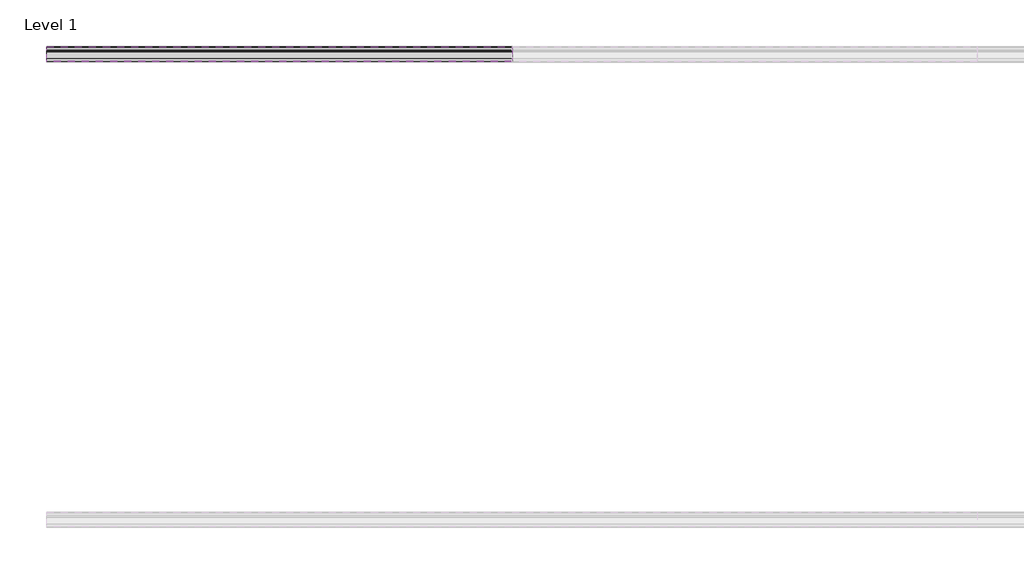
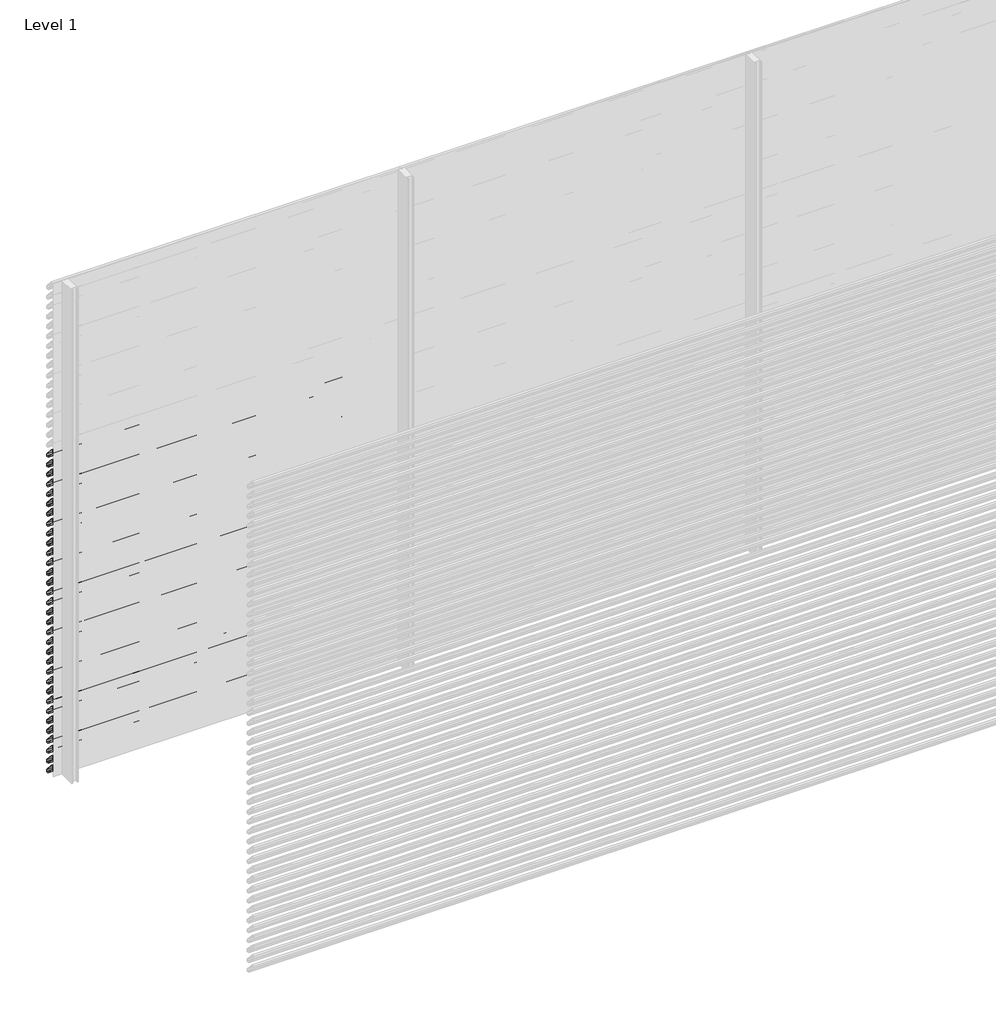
# One storey, part 110 of 153: 33 proxies.
"""IFC4 building model written with IfcOpenShell, lengths in millimetres."""

from ifc_helpers import new_model, si_unit, point, frame, frame_2d, origin, place, context, project, spatial, polyline, circle_curve, trimmed, segment, composite_curve, outline, extrude, element, save

model = new_model("IFC4")

# Units and contexts
model_context = context("Model", 3, world=origin())
ifc_project = project(units=[si_unit("LENGTHUNIT", "METRE", prefix="MILLI")], contexts=[model_context])

# Site, building, storey
site = spatial("IfcSite", under=ifc_project)
building = spatial("IfcBuilding", under=site)
storey = spatial("IfcBuildingStorey", under=building, Name="Level 1", Elevation=0.0)

# Proxies
placement = place(None, origin())
element("IfcBuildingElementProxy", 1, Name="Wall Sweeps", at=placement, inside=storey, context=model_context, shape_type="SweptSolid", body=[
    extrude(outline(composite_curve([segment(polyline([(51485.0540136, 1980.0), (51499.874191, 1978.7034025), (51549.0540136, 1925.0102749), (51549.0540136, 1913.6108187)]), True, "CONTINUOUS"), segment(trimmed(circle_curve(frame_2d((51545.7883652, 1913.897153)), 3.2781774), [point((51549.0540136, 1913.6108187))], [point((51546.4639442, 1910.6893438))], False, "CARTESIAN"), True, "CONTINUOUS"), segment(polyline([(51546.4639442, 1910.6893438), (51534.1895723, 1911.6282758), (51485.0540136, 1965.2730773), (51485.0540136, 1980.0)]), True, "CONTINUOUS")], self_intersect=False), holes=[composite_curve([segment(polyline([(51499.1621773, 1977.2599659), (51486.5540136, 1978.3630372), (51486.5540136, 1965.856213), (51534.8952036, 1913.0786805), (51546.3312542, 1912.2038762)]), True, "CONTINUOUS"), segment(trimmed(circle_curve(frame_2d((51545.7883652, 1913.897153)), 1.7781774), [point((51546.3312542, 1912.2038762))], [point((51547.5540136, 1913.6864389))], True, "CARTESIAN"), True, "CONTINUOUS"), segment(polyline([(51547.5540136, 1913.6864389), (51547.5540136, 1924.4271392), (51499.1621773, 1977.2599659)]), True, "CONTINUOUS")], self_intersect=False)]), frame((44966.6208097, 0.0, 0.0), z_axis=(1.0, 0.0, 0.0), x_axis=(0.0, 1.0, 0.0)), (0.0, 0.0, 1.0), 2000.0000001),
])
element("IfcBuildingElementProxy", 2, Name="Wall Sweeps", at=placement, inside=storey, context=model_context, shape_type="SweptSolid", body=[
    extrude(outline(composite_curve([segment(polyline([(51485.0540136, 1920.0), (51499.874191, 1918.7034025), (51549.0540136, 1865.0102749), (51549.0540136, 1853.6108187)]), True, "CONTINUOUS"), segment(trimmed(circle_curve(frame_2d((51545.7883652, 1853.897153)), 3.2781774), [point((51549.0540136, 1853.6108187))], [point((51546.4639442, 1850.6893438))], False, "CARTESIAN"), True, "CONTINUOUS"), segment(polyline([(51546.4639442, 1850.6893438), (51534.1895723, 1851.6282758), (51485.0540136, 1905.2730773), (51485.0540136, 1920.0)]), True, "CONTINUOUS")], self_intersect=False), holes=[composite_curve([segment(polyline([(51499.1621773, 1917.2599659), (51486.5540136, 1918.3630372), (51486.5540136, 1905.856213), (51534.8952036, 1853.0786805), (51546.3312542, 1852.2038762)]), True, "CONTINUOUS"), segment(trimmed(circle_curve(frame_2d((51545.7883652, 1853.897153)), 1.7781774), [point((51546.3312542, 1852.2038762))], [point((51547.5540136, 1853.6864389))], True, "CARTESIAN"), True, "CONTINUOUS"), segment(polyline([(51547.5540136, 1853.6864389), (51547.5540136, 1864.4271392), (51499.1621773, 1917.2599659)]), True, "CONTINUOUS")], self_intersect=False)]), frame((44966.6208097, 0.0, 0.0), z_axis=(1.0, 0.0, 0.0), x_axis=(0.0, 1.0, 0.0)), (0.0, 0.0, 1.0), 2000.0000001),
])
element("IfcBuildingElementProxy", 3, Name="Wall Sweeps", at=placement, inside=storey, context=model_context, shape_type="SweptSolid", body=[
    extrude(outline(composite_curve([segment(polyline([(51485.0540136, 1860.0), (51499.874191, 1858.7034025), (51549.0540136, 1805.0102749), (51549.0540136, 1793.6108187)]), True, "CONTINUOUS"), segment(trimmed(circle_curve(frame_2d((51545.7883652, 1793.897153)), 3.2781774), [point((51549.0540136, 1793.6108187))], [point((51546.4639442, 1790.6893438))], False, "CARTESIAN"), True, "CONTINUOUS"), segment(polyline([(51546.4639442, 1790.6893438), (51534.1895723, 1791.6282758), (51485.0540136, 1845.2730773), (51485.0540136, 1860.0)]), True, "CONTINUOUS")], self_intersect=False), holes=[composite_curve([segment(polyline([(51499.1621773, 1857.2599659), (51486.5540136, 1858.3630372), (51486.5540136, 1845.856213), (51534.8952036, 1793.0786805), (51546.3312542, 1792.2038762)]), True, "CONTINUOUS"), segment(trimmed(circle_curve(frame_2d((51545.7883652, 1793.897153)), 1.7781774), [point((51546.3312542, 1792.2038762))], [point((51547.5540136, 1793.6864389))], True, "CARTESIAN"), True, "CONTINUOUS"), segment(polyline([(51547.5540136, 1793.6864389), (51547.5540136, 1804.4271392), (51499.1621773, 1857.2599659)]), True, "CONTINUOUS")], self_intersect=False)]), frame((44966.6208097, 0.0, 0.0), z_axis=(1.0, 0.0, 0.0), x_axis=(0.0, 1.0, 0.0)), (0.0, 0.0, 1.0), 2000.0000001),
])
element("IfcBuildingElementProxy", 4, Name="Wall Sweeps", at=placement, inside=storey, context=model_context, shape_type="SweptSolid", body=[
    extrude(outline(composite_curve([segment(polyline([(51485.0540136, 1800.0), (51499.874191, 1798.7034025), (51549.0540136, 1745.0102749), (51549.0540136, 1733.6108187)]), True, "CONTINUOUS"), segment(trimmed(circle_curve(frame_2d((51545.7883652, 1733.897153)), 3.2781774), [point((51549.0540136, 1733.6108187))], [point((51546.4639442, 1730.6893438))], False, "CARTESIAN"), True, "CONTINUOUS"), segment(polyline([(51546.4639442, 1730.6893438), (51534.1895723, 1731.6282758), (51485.0540136, 1785.2730773), (51485.0540136, 1800.0)]), True, "CONTINUOUS")], self_intersect=False), holes=[composite_curve([segment(polyline([(51499.1621773, 1797.2599659), (51486.5540136, 1798.3630372), (51486.5540136, 1785.856213), (51534.8952036, 1733.0786805), (51546.3312542, 1732.2038762)]), True, "CONTINUOUS"), segment(trimmed(circle_curve(frame_2d((51545.7883652, 1733.897153)), 1.7781774), [point((51546.3312542, 1732.2038762))], [point((51547.5540136, 1733.6864389))], True, "CARTESIAN"), True, "CONTINUOUS"), segment(polyline([(51547.5540136, 1733.6864389), (51547.5540136, 1744.4271392), (51499.1621773, 1797.2599659)]), True, "CONTINUOUS")], self_intersect=False)]), frame((44966.6208097, 0.0, 0.0), z_axis=(1.0, 0.0, 0.0), x_axis=(0.0, 1.0, 0.0)), (0.0, 0.0, 1.0), 2000.0000001),
])
element("IfcBuildingElementProxy", 5, Name="Wall Sweeps", at=placement, inside=storey, context=model_context, shape_type="SweptSolid", body=[
    extrude(outline(composite_curve([segment(polyline([(51485.0540136, 1740.0), (51499.874191, 1738.7034025), (51549.0540136, 1685.0102749), (51549.0540136, 1673.6108187)]), True, "CONTINUOUS"), segment(trimmed(circle_curve(frame_2d((51545.7883652, 1673.897153)), 3.2781774), [point((51549.0540136, 1673.6108187))], [point((51546.4639442, 1670.6893438))], False, "CARTESIAN"), True, "CONTINUOUS"), segment(polyline([(51546.4639442, 1670.6893438), (51534.1895723, 1671.6282758), (51485.0540136, 1725.2730773), (51485.0540136, 1740.0)]), True, "CONTINUOUS")], self_intersect=False), holes=[composite_curve([segment(polyline([(51499.1621773, 1737.2599659), (51486.5540136, 1738.3630372), (51486.5540136, 1725.856213), (51534.8952036, 1673.0786805), (51546.3312542, 1672.2038762)]), True, "CONTINUOUS"), segment(trimmed(circle_curve(frame_2d((51545.7883652, 1673.897153)), 1.7781774), [point((51546.3312542, 1672.2038762))], [point((51547.5540136, 1673.6864389))], True, "CARTESIAN"), True, "CONTINUOUS"), segment(polyline([(51547.5540136, 1673.6864389), (51547.5540136, 1684.4271392), (51499.1621773, 1737.2599659)]), True, "CONTINUOUS")], self_intersect=False)]), frame((44966.6208097, 0.0, 0.0), z_axis=(1.0, 0.0, 0.0), x_axis=(0.0, 1.0, 0.0)), (0.0, 0.0, 1.0), 2000.0000001),
])
element("IfcBuildingElementProxy", 6, Name="Wall Sweeps", at=placement, inside=storey, context=model_context, shape_type="SweptSolid", body=[
    extrude(outline(composite_curve([segment(polyline([(51485.0540136, 1680.0), (51499.874191, 1678.7034025), (51549.0540136, 1625.0102749), (51549.0540136, 1613.6108187)]), True, "CONTINUOUS"), segment(trimmed(circle_curve(frame_2d((51545.7883652, 1613.897153)), 3.2781774), [point((51549.0540136, 1613.6108187))], [point((51546.4639442, 1610.6893438))], False, "CARTESIAN"), True, "CONTINUOUS"), segment(polyline([(51546.4639442, 1610.6893438), (51534.1895723, 1611.6282758), (51485.0540136, 1665.2730773), (51485.0540136, 1680.0)]), True, "CONTINUOUS")], self_intersect=False), holes=[composite_curve([segment(polyline([(51499.1621773, 1677.2599659), (51486.5540136, 1678.3630372), (51486.5540136, 1665.856213), (51534.8952036, 1613.0786805), (51546.3312542, 1612.2038762)]), True, "CONTINUOUS"), segment(trimmed(circle_curve(frame_2d((51545.7883652, 1613.897153)), 1.7781774), [point((51546.3312542, 1612.2038762))], [point((51547.5540136, 1613.6864389))], True, "CARTESIAN"), True, "CONTINUOUS"), segment(polyline([(51547.5540136, 1613.6864389), (51547.5540136, 1624.4271392), (51499.1621773, 1677.2599659)]), True, "CONTINUOUS")], self_intersect=False)]), frame((44966.6208097, 0.0, 0.0), z_axis=(1.0, 0.0, 0.0), x_axis=(0.0, 1.0, 0.0)), (0.0, 0.0, 1.0), 2000.0000001),
])
element("IfcBuildingElementProxy", 7, Name="Wall Sweeps", at=placement, inside=storey, context=model_context, shape_type="SweptSolid", body=[
    extrude(outline(composite_curve([segment(polyline([(51485.0540136, 1620.0), (51499.874191, 1618.7034025), (51549.0540136, 1565.0102749), (51549.0540136, 1553.6108187)]), True, "CONTINUOUS"), segment(trimmed(circle_curve(frame_2d((51545.7883652, 1553.897153)), 3.2781774), [point((51549.0540136, 1553.6108187))], [point((51546.4639442, 1550.6893438))], False, "CARTESIAN"), True, "CONTINUOUS"), segment(polyline([(51546.4639442, 1550.6893438), (51534.1895723, 1551.6282758), (51485.0540136, 1605.2730773), (51485.0540136, 1620.0)]), True, "CONTINUOUS")], self_intersect=False), holes=[composite_curve([segment(polyline([(51499.1621773, 1617.2599659), (51486.5540136, 1618.3630372), (51486.5540136, 1605.856213), (51534.8952036, 1553.0786805), (51546.3312542, 1552.2038762)]), True, "CONTINUOUS"), segment(trimmed(circle_curve(frame_2d((51545.7883652, 1553.897153)), 1.7781774), [point((51546.3312542, 1552.2038762))], [point((51547.5540136, 1553.6864389))], True, "CARTESIAN"), True, "CONTINUOUS"), segment(polyline([(51547.5540136, 1553.6864389), (51547.5540136, 1564.4271392), (51499.1621773, 1617.2599659)]), True, "CONTINUOUS")], self_intersect=False)]), frame((44966.6208097, 0.0, 0.0), z_axis=(1.0, 0.0, 0.0), x_axis=(0.0, 1.0, 0.0)), (0.0, 0.0, 1.0), 2000.0000001),
])
element("IfcBuildingElementProxy", 8, Name="Wall Sweeps", at=placement, inside=storey, context=model_context, shape_type="SweptSolid", body=[
    extrude(outline(composite_curve([segment(polyline([(51485.0540136, 1560.0), (51499.874191, 1558.7034025), (51549.0540136, 1505.0102749), (51549.0540136, 1493.6108187)]), True, "CONTINUOUS"), segment(trimmed(circle_curve(frame_2d((51545.7883652, 1493.897153)), 3.2781774), [point((51549.0540136, 1493.6108187))], [point((51546.4639442, 1490.6893438))], False, "CARTESIAN"), True, "CONTINUOUS"), segment(polyline([(51546.4639442, 1490.6893438), (51534.1895723, 1491.6282758), (51485.0540136, 1545.2730773), (51485.0540136, 1560.0)]), True, "CONTINUOUS")], self_intersect=False), holes=[composite_curve([segment(polyline([(51499.1621773, 1557.2599659), (51486.5540136, 1558.3630372), (51486.5540136, 1545.856213), (51534.8952036, 1493.0786805), (51546.3312542, 1492.2038762)]), True, "CONTINUOUS"), segment(trimmed(circle_curve(frame_2d((51545.7883652, 1493.897153)), 1.7781774), [point((51546.3312542, 1492.2038762))], [point((51547.5540136, 1493.6864389))], True, "CARTESIAN"), True, "CONTINUOUS"), segment(polyline([(51547.5540136, 1493.6864389), (51547.5540136, 1504.4271392), (51499.1621773, 1557.2599659)]), True, "CONTINUOUS")], self_intersect=False)]), frame((44966.6208097, 0.0, 0.0), z_axis=(1.0, 0.0, 0.0), x_axis=(0.0, 1.0, 0.0)), (0.0, 0.0, 1.0), 2000.0000001),
])
element("IfcBuildingElementProxy", 9, Name="Wall Sweeps", at=placement, inside=storey, context=model_context, shape_type="SweptSolid", body=[
    extrude(outline(composite_curve([segment(polyline([(51485.0540136, 1500.0), (51499.874191, 1498.7034025), (51549.0540136, 1445.0102749), (51549.0540136, 1433.6108187)]), True, "CONTINUOUS"), segment(trimmed(circle_curve(frame_2d((51545.7883652, 1433.897153)), 3.2781774), [point((51549.0540136, 1433.6108187))], [point((51546.4639442, 1430.6893438))], False, "CARTESIAN"), True, "CONTINUOUS"), segment(polyline([(51546.4639442, 1430.6893438), (51534.1895723, 1431.6282758), (51485.0540136, 1485.2730773), (51485.0540136, 1500.0)]), True, "CONTINUOUS")], self_intersect=False), holes=[composite_curve([segment(polyline([(51499.1621773, 1497.2599659), (51486.5540136, 1498.3630372), (51486.5540136, 1485.856213), (51534.8952036, 1433.0786805), (51546.3312542, 1432.2038762)]), True, "CONTINUOUS"), segment(trimmed(circle_curve(frame_2d((51545.7883652, 1433.897153)), 1.7781774), [point((51546.3312542, 1432.2038762))], [point((51547.5540136, 1433.6864389))], True, "CARTESIAN"), True, "CONTINUOUS"), segment(polyline([(51547.5540136, 1433.6864389), (51547.5540136, 1444.4271392), (51499.1621773, 1497.2599659)]), True, "CONTINUOUS")], self_intersect=False)]), frame((44966.6208097, 0.0, 0.0), z_axis=(1.0, 0.0, 0.0), x_axis=(0.0, 1.0, 0.0)), (0.0, 0.0, 1.0), 2000.0000001),
])
element("IfcBuildingElementProxy", 10, Name="Wall Sweeps", at=placement, inside=storey, context=model_context, shape_type="SweptSolid", body=[
    extrude(outline(composite_curve([segment(polyline([(51485.0540136, 1440.0), (51499.874191, 1438.7034025), (51549.0540136, 1385.0102749), (51549.0540136, 1373.6108187)]), True, "CONTINUOUS"), segment(trimmed(circle_curve(frame_2d((51545.7883652, 1373.897153)), 3.2781774), [point((51549.0540136, 1373.6108187))], [point((51546.4639442, 1370.6893438))], False, "CARTESIAN"), True, "CONTINUOUS"), segment(polyline([(51546.4639442, 1370.6893438), (51534.1895723, 1371.6282758), (51485.0540136, 1425.2730773), (51485.0540136, 1440.0)]), True, "CONTINUOUS")], self_intersect=False), holes=[composite_curve([segment(polyline([(51499.1621773, 1437.2599659), (51486.5540136, 1438.3630372), (51486.5540136, 1425.856213), (51534.8952036, 1373.0786805), (51546.3312542, 1372.2038762)]), True, "CONTINUOUS"), segment(trimmed(circle_curve(frame_2d((51545.7883652, 1373.897153)), 1.7781774), [point((51546.3312542, 1372.2038762))], [point((51547.5540136, 1373.6864389))], True, "CARTESIAN"), True, "CONTINUOUS"), segment(polyline([(51547.5540136, 1373.6864389), (51547.5540136, 1384.4271392), (51499.1621773, 1437.2599659)]), True, "CONTINUOUS")], self_intersect=False)]), frame((44966.6208097, 0.0, 0.0), z_axis=(1.0, 0.0, 0.0), x_axis=(0.0, 1.0, 0.0)), (0.0, 0.0, 1.0), 2000.0000001),
])
element("IfcBuildingElementProxy", 11, Name="Wall Sweeps", at=placement, inside=storey, context=model_context, shape_type="SweptSolid", body=[
    extrude(outline(composite_curve([segment(polyline([(51485.0540136, 1380.0), (51499.874191, 1378.7034025), (51549.0540136, 1325.0102749), (51549.0540136, 1313.6108187)]), True, "CONTINUOUS"), segment(trimmed(circle_curve(frame_2d((51545.7883652, 1313.897153)), 3.2781774), [point((51549.0540136, 1313.6108187))], [point((51546.4639442, 1310.6893438))], False, "CARTESIAN"), True, "CONTINUOUS"), segment(polyline([(51546.4639442, 1310.6893438), (51534.1895723, 1311.6282758), (51485.0540136, 1365.2730773), (51485.0540136, 1380.0)]), True, "CONTINUOUS")], self_intersect=False), holes=[composite_curve([segment(polyline([(51499.1621773, 1377.2599659), (51486.5540136, 1378.3630372), (51486.5540136, 1365.856213), (51534.8952036, 1313.0786805), (51546.3312542, 1312.2038762)]), True, "CONTINUOUS"), segment(trimmed(circle_curve(frame_2d((51545.7883652, 1313.897153)), 1.7781774), [point((51546.3312542, 1312.2038762))], [point((51547.5540136, 1313.6864389))], True, "CARTESIAN"), True, "CONTINUOUS"), segment(polyline([(51547.5540136, 1313.6864389), (51547.5540136, 1324.4271392), (51499.1621773, 1377.2599659)]), True, "CONTINUOUS")], self_intersect=False)]), frame((44966.6208097, 0.0, 0.0), z_axis=(1.0, 0.0, 0.0), x_axis=(0.0, 1.0, 0.0)), (0.0, 0.0, 1.0), 2000.0000001),
])
element("IfcBuildingElementProxy", 12, Name="Wall Sweeps", at=placement, inside=storey, context=model_context, shape_type="SweptSolid", body=[
    extrude(outline(composite_curve([segment(polyline([(51485.0540136, 1320.0), (51499.874191, 1318.7034025), (51549.0540136, 1265.0102749), (51549.0540136, 1253.6108187)]), True, "CONTINUOUS"), segment(trimmed(circle_curve(frame_2d((51545.7883652, 1253.897153)), 3.2781774), [point((51549.0540136, 1253.6108187))], [point((51546.4639442, 1250.6893438))], False, "CARTESIAN"), True, "CONTINUOUS"), segment(polyline([(51546.4639442, 1250.6893438), (51534.1895723, 1251.6282758), (51485.0540136, 1305.2730773), (51485.0540136, 1320.0)]), True, "CONTINUOUS")], self_intersect=False), holes=[composite_curve([segment(polyline([(51499.1621773, 1317.2599659), (51486.5540136, 1318.3630372), (51486.5540136, 1305.856213), (51534.8952036, 1253.0786805), (51546.3312542, 1252.2038762)]), True, "CONTINUOUS"), segment(trimmed(circle_curve(frame_2d((51545.7883652, 1253.897153)), 1.7781774), [point((51546.3312542, 1252.2038762))], [point((51547.5540136, 1253.6864389))], True, "CARTESIAN"), True, "CONTINUOUS"), segment(polyline([(51547.5540136, 1253.6864389), (51547.5540136, 1264.4271392), (51499.1621773, 1317.2599659)]), True, "CONTINUOUS")], self_intersect=False)]), frame((44966.6208097, 0.0, 0.0), z_axis=(1.0, 0.0, 0.0), x_axis=(0.0, 1.0, 0.0)), (0.0, 0.0, 1.0), 2000.0000001),
])
element("IfcBuildingElementProxy", 13, Name="Wall Sweeps", at=placement, inside=storey, context=model_context, shape_type="SweptSolid", body=[
    extrude(outline(composite_curve([segment(polyline([(51485.0540136, 1260.0), (51499.874191, 1258.7034025), (51549.0540136, 1205.0102749), (51549.0540136, 1193.6108187)]), True, "CONTINUOUS"), segment(trimmed(circle_curve(frame_2d((51545.7883652, 1193.897153)), 3.2781774), [point((51549.0540136, 1193.6108187))], [point((51546.4639442, 1190.6893438))], False, "CARTESIAN"), True, "CONTINUOUS"), segment(polyline([(51546.4639442, 1190.6893438), (51534.1895723, 1191.6282758), (51485.0540136, 1245.2730773), (51485.0540136, 1260.0)]), True, "CONTINUOUS")], self_intersect=False), holes=[composite_curve([segment(polyline([(51499.1621773, 1257.2599659), (51486.5540136, 1258.3630372), (51486.5540136, 1245.856213), (51534.8952036, 1193.0786805), (51546.3312542, 1192.2038762)]), True, "CONTINUOUS"), segment(trimmed(circle_curve(frame_2d((51545.7883652, 1193.897153)), 1.7781774), [point((51546.3312542, 1192.2038762))], [point((51547.5540136, 1193.6864389))], True, "CARTESIAN"), True, "CONTINUOUS"), segment(polyline([(51547.5540136, 1193.6864389), (51547.5540136, 1204.4271392), (51499.1621773, 1257.2599659)]), True, "CONTINUOUS")], self_intersect=False)]), frame((44966.6208097, 0.0, 0.0), z_axis=(1.0, 0.0, 0.0), x_axis=(0.0, 1.0, 0.0)), (0.0, 0.0, 1.0), 2000.0000001),
])
element("IfcBuildingElementProxy", 14, Name="Wall Sweeps", at=placement, inside=storey, context=model_context, shape_type="SweptSolid", body=[
    extrude(outline(composite_curve([segment(polyline([(51485.0540136, 1200.0), (51499.874191, 1198.7034025), (51549.0540136, 1145.0102749), (51549.0540136, 1133.6108187)]), True, "CONTINUOUS"), segment(trimmed(circle_curve(frame_2d((51545.7883652, 1133.897153)), 3.2781774), [point((51549.0540136, 1133.6108187))], [point((51546.4639442, 1130.6893438))], False, "CARTESIAN"), True, "CONTINUOUS"), segment(polyline([(51546.4639442, 1130.6893438), (51534.1895723, 1131.6282758), (51485.0540136, 1185.2730773), (51485.0540136, 1200.0)]), True, "CONTINUOUS")], self_intersect=False), holes=[composite_curve([segment(polyline([(51499.1621773, 1197.2599659), (51486.5540136, 1198.3630372), (51486.5540136, 1185.856213), (51534.8952036, 1133.0786805), (51546.3312542, 1132.2038762)]), True, "CONTINUOUS"), segment(trimmed(circle_curve(frame_2d((51545.7883652, 1133.897153)), 1.7781774), [point((51546.3312542, 1132.2038762))], [point((51547.5540136, 1133.6864389))], True, "CARTESIAN"), True, "CONTINUOUS"), segment(polyline([(51547.5540136, 1133.6864389), (51547.5540136, 1144.4271392), (51499.1621773, 1197.2599659)]), True, "CONTINUOUS")], self_intersect=False)]), frame((44966.6208097, 0.0, 0.0), z_axis=(1.0, 0.0, 0.0), x_axis=(0.0, 1.0, 0.0)), (0.0, 0.0, 1.0), 2000.0000001),
])
element("IfcBuildingElementProxy", 15, Name="Wall Sweeps", at=placement, inside=storey, context=model_context, shape_type="SweptSolid", body=[
    extrude(outline(composite_curve([segment(polyline([(51485.0540136, 1140.0), (51499.874191, 1138.7034025), (51549.0540136, 1085.0102749), (51549.0540136, 1073.6108187)]), True, "CONTINUOUS"), segment(trimmed(circle_curve(frame_2d((51545.7883652, 1073.897153)), 3.2781774), [point((51549.0540136, 1073.6108187))], [point((51546.4639442, 1070.6893438))], False, "CARTESIAN"), True, "CONTINUOUS"), segment(polyline([(51546.4639442, 1070.6893438), (51534.1895723, 1071.6282758), (51485.0540136, 1125.2730773), (51485.0540136, 1140.0)]), True, "CONTINUOUS")], self_intersect=False), holes=[composite_curve([segment(polyline([(51499.1621773, 1137.2599659), (51486.5540136, 1138.3630372), (51486.5540136, 1125.856213), (51534.8952036, 1073.0786805), (51546.3312542, 1072.2038762)]), True, "CONTINUOUS"), segment(trimmed(circle_curve(frame_2d((51545.7883652, 1073.897153)), 1.7781774), [point((51546.3312542, 1072.2038762))], [point((51547.5540136, 1073.6864389))], True, "CARTESIAN"), True, "CONTINUOUS"), segment(polyline([(51547.5540136, 1073.6864389), (51547.5540136, 1084.4271392), (51499.1621773, 1137.2599659)]), True, "CONTINUOUS")], self_intersect=False)]), frame((44966.6208097, 0.0, 0.0), z_axis=(1.0, 0.0, 0.0), x_axis=(0.0, 1.0, 0.0)), (0.0, 0.0, 1.0), 2000.0000001),
])
element("IfcBuildingElementProxy", 16, Name="Wall Sweeps", at=placement, inside=storey, context=model_context, shape_type="SweptSolid", body=[
    extrude(outline(composite_curve([segment(polyline([(51485.0540136, 1080.0), (51499.874191, 1078.7034025), (51549.0540136, 1025.0102749), (51549.0540136, 1013.6108187)]), True, "CONTINUOUS"), segment(trimmed(circle_curve(frame_2d((51545.7883652, 1013.897153)), 3.2781774), [point((51549.0540136, 1013.6108187))], [point((51546.4639442, 1010.6893438))], False, "CARTESIAN"), True, "CONTINUOUS"), segment(polyline([(51546.4639442, 1010.6893438), (51534.1895723, 1011.6282758), (51485.0540136, 1065.2730773), (51485.0540136, 1080.0)]), True, "CONTINUOUS")], self_intersect=False), holes=[composite_curve([segment(polyline([(51499.1621773, 1077.2599659), (51486.5540136, 1078.3630372), (51486.5540136, 1065.856213), (51534.8952036, 1013.0786805), (51546.3312542, 1012.2038762)]), True, "CONTINUOUS"), segment(trimmed(circle_curve(frame_2d((51545.7883652, 1013.897153)), 1.7781774), [point((51546.3312542, 1012.2038762))], [point((51547.5540136, 1013.6864389))], True, "CARTESIAN"), True, "CONTINUOUS"), segment(polyline([(51547.5540136, 1013.6864389), (51547.5540136, 1024.4271392), (51499.1621773, 1077.2599659)]), True, "CONTINUOUS")], self_intersect=False)]), frame((44966.6208097, 0.0, 0.0), z_axis=(1.0, 0.0, 0.0), x_axis=(0.0, 1.0, 0.0)), (0.0, 0.0, 1.0), 2000.0000001),
])
element("IfcBuildingElementProxy", 17, Name="Wall Sweeps", at=placement, inside=storey, context=model_context, shape_type="SweptSolid", body=[
    extrude(outline(composite_curve([segment(polyline([(51485.0540136, 1020.0), (51499.874191, 1018.7034025), (51549.0540136, 965.0102749), (51549.0540136, 953.6108187)]), True, "CONTINUOUS"), segment(trimmed(circle_curve(frame_2d((51545.7883652, 953.897153)), 3.2781774), [point((51549.0540136, 953.6108187))], [point((51546.4639442, 950.6893438))], False, "CARTESIAN"), True, "CONTINUOUS"), segment(polyline([(51546.4639442, 950.6893438), (51534.1895723, 951.6282758), (51485.0540136, 1005.2730773), (51485.0540136, 1020.0)]), True, "CONTINUOUS")], self_intersect=False), holes=[composite_curve([segment(polyline([(51499.1621773, 1017.2599659), (51486.5540136, 1018.3630372), (51486.5540136, 1005.856213), (51534.8952036, 953.0786805), (51546.3312542, 952.2038762)]), True, "CONTINUOUS"), segment(trimmed(circle_curve(frame_2d((51545.7883652, 953.897153)), 1.7781774), [point((51546.3312542, 952.2038762))], [point((51547.5540136, 953.6864389))], True, "CARTESIAN"), True, "CONTINUOUS"), segment(polyline([(51547.5540136, 953.6864389), (51547.5540136, 964.4271392), (51499.1621773, 1017.2599659)]), True, "CONTINUOUS")], self_intersect=False)]), frame((44966.6208097, 0.0, 0.0), z_axis=(1.0, 0.0, 0.0), x_axis=(0.0, 1.0, 0.0)), (0.0, 0.0, 1.0), 2000.0000001),
])
element("IfcBuildingElementProxy", 18, Name="Wall Sweeps", at=placement, inside=storey, context=model_context, shape_type="SweptSolid", body=[
    extrude(outline(composite_curve([segment(polyline([(51485.0540136, 960.0), (51499.874191, 958.7034025), (51549.0540136, 905.0102749), (51549.0540136, 893.6108187)]), True, "CONTINUOUS"), segment(trimmed(circle_curve(frame_2d((51545.7883652, 893.897153)), 3.2781774), [point((51549.0540136, 893.6108187))], [point((51546.4639442, 890.6893438))], False, "CARTESIAN"), True, "CONTINUOUS"), segment(polyline([(51546.4639442, 890.6893438), (51534.1895723, 891.6282758), (51485.0540136, 945.2730773), (51485.0540136, 960.0)]), True, "CONTINUOUS")], self_intersect=False), holes=[composite_curve([segment(polyline([(51499.1621773, 957.2599659), (51486.5540136, 958.3630372), (51486.5540136, 945.856213), (51534.8952036, 893.0786805), (51546.3312542, 892.2038762)]), True, "CONTINUOUS"), segment(trimmed(circle_curve(frame_2d((51545.7883652, 893.897153)), 1.7781774), [point((51546.3312542, 892.2038762))], [point((51547.5540136, 893.6864389))], True, "CARTESIAN"), True, "CONTINUOUS"), segment(polyline([(51547.5540136, 893.6864389), (51547.5540136, 904.4271392), (51499.1621773, 957.2599659)]), True, "CONTINUOUS")], self_intersect=False)]), frame((44966.6208097, 0.0, 0.0), z_axis=(1.0, 0.0, 0.0), x_axis=(0.0, 1.0, 0.0)), (0.0, 0.0, 1.0), 2000.0000001),
])
element("IfcBuildingElementProxy", 19, Name="Wall Sweeps", at=placement, inside=storey, context=model_context, shape_type="SweptSolid", body=[
    extrude(outline(composite_curve([segment(polyline([(51485.0540136, 900.0), (51499.874191, 898.7034025), (51549.0540136, 845.0102749), (51549.0540136, 833.6108187)]), True, "CONTINUOUS"), segment(trimmed(circle_curve(frame_2d((51545.7883652, 833.897153)), 3.2781774), [point((51549.0540136, 833.6108187))], [point((51546.4639442, 830.6893438))], False, "CARTESIAN"), True, "CONTINUOUS"), segment(polyline([(51546.4639442, 830.6893438), (51534.1895723, 831.6282758), (51485.0540136, 885.2730773), (51485.0540136, 900.0)]), True, "CONTINUOUS")], self_intersect=False), holes=[composite_curve([segment(polyline([(51499.1621773, 897.2599659), (51486.5540136, 898.3630372), (51486.5540136, 885.856213), (51534.8952036, 833.0786805), (51546.3312542, 832.2038762)]), True, "CONTINUOUS"), segment(trimmed(circle_curve(frame_2d((51545.7883652, 833.897153)), 1.7781774), [point((51546.3312542, 832.2038762))], [point((51547.5540136, 833.6864389))], True, "CARTESIAN"), True, "CONTINUOUS"), segment(polyline([(51547.5540136, 833.6864389), (51547.5540136, 844.4271392), (51499.1621773, 897.2599659)]), True, "CONTINUOUS")], self_intersect=False)]), frame((44966.6208097, 0.0, 0.0), z_axis=(1.0, 0.0, 0.0), x_axis=(0.0, 1.0, 0.0)), (0.0, 0.0, 1.0), 2000.0000001),
])
element("IfcBuildingElementProxy", 20, Name="Wall Sweeps", at=placement, inside=storey, context=model_context, shape_type="SweptSolid", body=[
    extrude(outline(composite_curve([segment(polyline([(51485.0540136, 840.0), (51499.874191, 838.7034025), (51549.0540136, 785.0102749), (51549.0540136, 773.6108187)]), True, "CONTINUOUS"), segment(trimmed(circle_curve(frame_2d((51545.7883652, 773.897153)), 3.2781774), [point((51549.0540136, 773.6108187))], [point((51546.4639442, 770.6893438))], False, "CARTESIAN"), True, "CONTINUOUS"), segment(polyline([(51546.4639442, 770.6893438), (51534.1895723, 771.6282758), (51485.0540136, 825.2730773), (51485.0540136, 840.0)]), True, "CONTINUOUS")], self_intersect=False), holes=[composite_curve([segment(polyline([(51499.1621773, 837.2599659), (51486.5540136, 838.3630372), (51486.5540136, 825.856213), (51534.8952036, 773.0786805), (51546.3312542, 772.2038762)]), True, "CONTINUOUS"), segment(trimmed(circle_curve(frame_2d((51545.7883652, 773.897153)), 1.7781774), [point((51546.3312542, 772.2038762))], [point((51547.5540136, 773.6864389))], True, "CARTESIAN"), True, "CONTINUOUS"), segment(polyline([(51547.5540136, 773.6864389), (51547.5540136, 784.4271392), (51499.1621773, 837.2599659)]), True, "CONTINUOUS")], self_intersect=False)]), frame((44966.6208097, 0.0, 0.0), z_axis=(1.0, 0.0, 0.0), x_axis=(0.0, 1.0, 0.0)), (0.0, 0.0, 1.0), 2000.0000001),
])
element("IfcBuildingElementProxy", 21, Name="Wall Sweeps", at=placement, inside=storey, context=model_context, shape_type="SweptSolid", body=[
    extrude(outline(composite_curve([segment(polyline([(51485.0540136, 780.0), (51499.874191, 778.7034025), (51549.0540136, 725.0102749), (51549.0540136, 713.6108187)]), True, "CONTINUOUS"), segment(trimmed(circle_curve(frame_2d((51545.7883652, 713.897153)), 3.2781774), [point((51549.0540136, 713.6108187))], [point((51546.4639442, 710.6893438))], False, "CARTESIAN"), True, "CONTINUOUS"), segment(polyline([(51546.4639442, 710.6893438), (51534.1895723, 711.6282758), (51485.0540136, 765.2730773), (51485.0540136, 780.0)]), True, "CONTINUOUS")], self_intersect=False), holes=[composite_curve([segment(polyline([(51499.1621773, 777.2599659), (51486.5540136, 778.3630372), (51486.5540136, 765.856213), (51534.8952036, 713.0786805), (51546.3312542, 712.2038762)]), True, "CONTINUOUS"), segment(trimmed(circle_curve(frame_2d((51545.7883652, 713.897153)), 1.7781774), [point((51546.3312542, 712.2038762))], [point((51547.5540136, 713.6864389))], True, "CARTESIAN"), True, "CONTINUOUS"), segment(polyline([(51547.5540136, 713.6864389), (51547.5540136, 724.4271392), (51499.1621773, 777.2599659)]), True, "CONTINUOUS")], self_intersect=False)]), frame((44966.6208097, 0.0, 0.0), z_axis=(1.0, 0.0, 0.0), x_axis=(0.0, 1.0, 0.0)), (0.0, 0.0, 1.0), 2000.0000001),
])
element("IfcBuildingElementProxy", 22, Name="Wall Sweeps", at=placement, inside=storey, context=model_context, shape_type="SweptSolid", body=[
    extrude(outline(composite_curve([segment(polyline([(51485.0540136, 720.0), (51499.874191, 718.7034025), (51549.0540136, 665.0102749), (51549.0540136, 653.6108187)]), True, "CONTINUOUS"), segment(trimmed(circle_curve(frame_2d((51545.7883652, 653.897153)), 3.2781774), [point((51549.0540136, 653.6108187))], [point((51546.4639442, 650.6893438))], False, "CARTESIAN"), True, "CONTINUOUS"), segment(polyline([(51546.4639442, 650.6893438), (51534.1895723, 651.6282758), (51485.0540136, 705.2730773), (51485.0540136, 720.0)]), True, "CONTINUOUS")], self_intersect=False), holes=[composite_curve([segment(polyline([(51499.1621773, 717.2599659), (51486.5540136, 718.3630372), (51486.5540136, 705.856213), (51534.8952036, 653.0786805), (51546.3312542, 652.2038762)]), True, "CONTINUOUS"), segment(trimmed(circle_curve(frame_2d((51545.7883652, 653.897153)), 1.7781774), [point((51546.3312542, 652.2038762))], [point((51547.5540136, 653.6864389))], True, "CARTESIAN"), True, "CONTINUOUS"), segment(polyline([(51547.5540136, 653.6864389), (51547.5540136, 664.4271392), (51499.1621773, 717.2599659)]), True, "CONTINUOUS")], self_intersect=False)]), frame((44966.6208097, 0.0, 0.0), z_axis=(1.0, 0.0, 0.0), x_axis=(0.0, 1.0, 0.0)), (0.0, 0.0, 1.0), 2000.0000001),
])
element("IfcBuildingElementProxy", 23, Name="Wall Sweeps", at=placement, inside=storey, context=model_context, shape_type="SweptSolid", body=[
    extrude(outline(composite_curve([segment(polyline([(51485.0540136, 660.0), (51499.874191, 658.7034025), (51549.0540136, 605.0102749), (51549.0540136, 593.6108187)]), True, "CONTINUOUS"), segment(trimmed(circle_curve(frame_2d((51545.7883652, 593.897153)), 3.2781774), [point((51549.0540136, 593.6108187))], [point((51546.4639442, 590.6893438))], False, "CARTESIAN"), True, "CONTINUOUS"), segment(polyline([(51546.4639442, 590.6893438), (51534.1895723, 591.6282758), (51485.0540136, 645.2730773), (51485.0540136, 660.0)]), True, "CONTINUOUS")], self_intersect=False), holes=[composite_curve([segment(polyline([(51499.1621773, 657.2599659), (51486.5540136, 658.3630372), (51486.5540136, 645.856213), (51534.8952036, 593.0786805), (51546.3312542, 592.2038762)]), True, "CONTINUOUS"), segment(trimmed(circle_curve(frame_2d((51545.7883652, 593.897153)), 1.7781774), [point((51546.3312542, 592.2038762))], [point((51547.5540136, 593.6864389))], True, "CARTESIAN"), True, "CONTINUOUS"), segment(polyline([(51547.5540136, 593.6864389), (51547.5540136, 604.4271392), (51499.1621773, 657.2599659)]), True, "CONTINUOUS")], self_intersect=False)]), frame((44966.6208097, 0.0, 0.0), z_axis=(1.0, 0.0, 0.0), x_axis=(0.0, 1.0, 0.0)), (0.0, 0.0, 1.0), 2000.0000001),
])
element("IfcBuildingElementProxy", 24, Name="Wall Sweeps", at=placement, inside=storey, context=model_context, shape_type="SweptSolid", body=[
    extrude(outline(composite_curve([segment(polyline([(51485.0540136, 600.0), (51499.874191, 598.7034025), (51549.0540136, 545.0102749), (51549.0540136, 533.6108187)]), True, "CONTINUOUS"), segment(trimmed(circle_curve(frame_2d((51545.7883652, 533.897153)), 3.2781774), [point((51549.0540136, 533.6108187))], [point((51546.4639442, 530.6893438))], False, "CARTESIAN"), True, "CONTINUOUS"), segment(polyline([(51546.4639442, 530.6893438), (51534.1895723, 531.6282758), (51485.0540136, 585.2730773), (51485.0540136, 600.0)]), True, "CONTINUOUS")], self_intersect=False), holes=[composite_curve([segment(polyline([(51499.1621773, 597.2599659), (51486.5540136, 598.3630372), (51486.5540136, 585.856213), (51534.8952036, 533.0786805), (51546.3312542, 532.2038762)]), True, "CONTINUOUS"), segment(trimmed(circle_curve(frame_2d((51545.7883652, 533.897153)), 1.7781774), [point((51546.3312542, 532.2038762))], [point((51547.5540136, 533.6864389))], True, "CARTESIAN"), True, "CONTINUOUS"), segment(polyline([(51547.5540136, 533.6864389), (51547.5540136, 544.4271392), (51499.1621773, 597.2599659)]), True, "CONTINUOUS")], self_intersect=False)]), frame((44966.6208097, 0.0, 0.0), z_axis=(1.0, 0.0, 0.0), x_axis=(0.0, 1.0, 0.0)), (0.0, 0.0, 1.0), 2000.0000001),
])
element("IfcBuildingElementProxy", 25, Name="Wall Sweeps", at=placement, inside=storey, context=model_context, shape_type="SweptSolid", body=[
    extrude(outline(composite_curve([segment(polyline([(51485.0540136, 540.0), (51499.874191, 538.7034025), (51549.0540136, 485.0102749), (51549.0540136, 473.6108187)]), True, "CONTINUOUS"), segment(trimmed(circle_curve(frame_2d((51545.7883652, 473.897153)), 3.2781774), [point((51549.0540136, 473.6108187))], [point((51546.4639442, 470.6893438))], False, "CARTESIAN"), True, "CONTINUOUS"), segment(polyline([(51546.4639442, 470.6893438), (51534.1895723, 471.6282758), (51485.0540136, 525.2730773), (51485.0540136, 540.0)]), True, "CONTINUOUS")], self_intersect=False), holes=[composite_curve([segment(polyline([(51499.1621773, 537.2599659), (51486.5540136, 538.3630372), (51486.5540136, 525.856213), (51534.8952036, 473.0786805), (51546.3312542, 472.2038762)]), True, "CONTINUOUS"), segment(trimmed(circle_curve(frame_2d((51545.7883652, 473.897153)), 1.7781774), [point((51546.3312542, 472.2038762))], [point((51547.5540136, 473.6864389))], True, "CARTESIAN"), True, "CONTINUOUS"), segment(polyline([(51547.5540136, 473.6864389), (51547.5540136, 484.4271392), (51499.1621773, 537.2599659)]), True, "CONTINUOUS")], self_intersect=False)]), frame((44966.6208097, 0.0, 0.0), z_axis=(1.0, 0.0, 0.0), x_axis=(0.0, 1.0, 0.0)), (0.0, 0.0, 1.0), 2000.0000001),
])
element("IfcBuildingElementProxy", 26, Name="Wall Sweeps", at=placement, inside=storey, context=model_context, shape_type="SweptSolid", body=[
    extrude(outline(composite_curve([segment(polyline([(51485.0540136, 480.0), (51499.874191, 478.7034025), (51549.0540136, 425.0102749), (51549.0540136, 413.6108187)]), True, "CONTINUOUS"), segment(trimmed(circle_curve(frame_2d((51545.7883652, 413.897153)), 3.2781774), [point((51549.0540136, 413.6108187))], [point((51546.4639442, 410.6893438))], False, "CARTESIAN"), True, "CONTINUOUS"), segment(polyline([(51546.4639442, 410.6893438), (51534.1895723, 411.6282758), (51485.0540136, 465.2730773), (51485.0540136, 480.0)]), True, "CONTINUOUS")], self_intersect=False), holes=[composite_curve([segment(polyline([(51499.1621773, 477.2599659), (51486.5540136, 478.3630372), (51486.5540136, 465.856213), (51534.8952036, 413.0786805), (51546.3312542, 412.2038762)]), True, "CONTINUOUS"), segment(trimmed(circle_curve(frame_2d((51545.7883652, 413.897153)), 1.7781774), [point((51546.3312542, 412.2038762))], [point((51547.5540136, 413.6864389))], True, "CARTESIAN"), True, "CONTINUOUS"), segment(polyline([(51547.5540136, 413.6864389), (51547.5540136, 424.4271392), (51499.1621773, 477.2599659)]), True, "CONTINUOUS")], self_intersect=False)]), frame((44966.6208097, 0.0, 0.0), z_axis=(1.0, 0.0, 0.0), x_axis=(0.0, 1.0, 0.0)), (0.0, 0.0, 1.0), 2000.0000001),
])
element("IfcBuildingElementProxy", 27, Name="Wall Sweeps", at=placement, inside=storey, context=model_context, shape_type="SweptSolid", body=[
    extrude(outline(composite_curve([segment(polyline([(51485.0540136, 420.0), (51499.874191, 418.7034025), (51549.0540136, 365.0102749), (51549.0540136, 353.6108187)]), True, "CONTINUOUS"), segment(trimmed(circle_curve(frame_2d((51545.7883652, 353.897153)), 3.2781774), [point((51549.0540136, 353.6108187))], [point((51546.4639442, 350.6893438))], False, "CARTESIAN"), True, "CONTINUOUS"), segment(polyline([(51546.4639442, 350.6893438), (51534.1895723, 351.6282758), (51485.0540136, 405.2730773), (51485.0540136, 420.0)]), True, "CONTINUOUS")], self_intersect=False), holes=[composite_curve([segment(polyline([(51499.1621773, 417.2599659), (51486.5540136, 418.3630372), (51486.5540136, 405.856213), (51534.8952036, 353.0786805), (51546.3312542, 352.2038762)]), True, "CONTINUOUS"), segment(trimmed(circle_curve(frame_2d((51545.7883652, 353.897153)), 1.7781774), [point((51546.3312542, 352.2038762))], [point((51547.5540136, 353.6864389))], True, "CARTESIAN"), True, "CONTINUOUS"), segment(polyline([(51547.5540136, 353.6864389), (51547.5540136, 364.4271392), (51499.1621773, 417.2599659)]), True, "CONTINUOUS")], self_intersect=False)]), frame((44966.6208097, 0.0, 0.0), z_axis=(1.0, 0.0, 0.0), x_axis=(0.0, 1.0, 0.0)), (0.0, 0.0, 1.0), 2000.0000001),
])
element("IfcBuildingElementProxy", 28, Name="Wall Sweeps", at=placement, inside=storey, context=model_context, shape_type="SweptSolid", body=[
    extrude(outline(composite_curve([segment(polyline([(51485.0540136, 360.0), (51499.874191, 358.7034025), (51549.0540136, 305.0102749), (51549.0540136, 293.6108187)]), True, "CONTINUOUS"), segment(trimmed(circle_curve(frame_2d((51545.7883652, 293.897153)), 3.2781774), [point((51549.0540136, 293.6108187))], [point((51546.4639442, 290.6893438))], False, "CARTESIAN"), True, "CONTINUOUS"), segment(polyline([(51546.4639442, 290.6893438), (51534.1895723, 291.6282758), (51485.0540136, 345.2730773), (51485.0540136, 360.0)]), True, "CONTINUOUS")], self_intersect=False), holes=[composite_curve([segment(polyline([(51499.1621773, 357.2599659), (51486.5540136, 358.3630372), (51486.5540136, 345.856213), (51534.8952036, 293.0786805), (51546.3312542, 292.2038762)]), True, "CONTINUOUS"), segment(trimmed(circle_curve(frame_2d((51545.7883652, 293.897153)), 1.7781774), [point((51546.3312542, 292.2038762))], [point((51547.5540136, 293.6864389))], True, "CARTESIAN"), True, "CONTINUOUS"), segment(polyline([(51547.5540136, 293.6864389), (51547.5540136, 304.4271392), (51499.1621773, 357.2599659)]), True, "CONTINUOUS")], self_intersect=False)]), frame((44966.6208097, 0.0, 0.0), z_axis=(1.0, 0.0, 0.0), x_axis=(0.0, 1.0, 0.0)), (0.0, 0.0, 1.0), 2000.0000001),
])
element("IfcBuildingElementProxy", 29, Name="Wall Sweeps", at=placement, inside=storey, context=model_context, shape_type="SweptSolid", body=[
    extrude(outline(composite_curve([segment(polyline([(51485.0540136, 300.0), (51499.874191, 298.7034025), (51549.0540136, 245.0102749), (51549.0540136, 233.6108187)]), True, "CONTINUOUS"), segment(trimmed(circle_curve(frame_2d((51545.7883652, 233.897153)), 3.2781774), [point((51549.0540136, 233.6108187))], [point((51546.4639442, 230.6893438))], False, "CARTESIAN"), True, "CONTINUOUS"), segment(polyline([(51546.4639442, 230.6893438), (51534.1895723, 231.6282758), (51485.0540136, 285.2730773), (51485.0540136, 300.0)]), True, "CONTINUOUS")], self_intersect=False), holes=[composite_curve([segment(polyline([(51499.1621773, 297.2599659), (51486.5540136, 298.3630372), (51486.5540136, 285.856213), (51534.8952036, 233.0786805), (51546.3312542, 232.2038762)]), True, "CONTINUOUS"), segment(trimmed(circle_curve(frame_2d((51545.7883652, 233.897153)), 1.7781774), [point((51546.3312542, 232.2038762))], [point((51547.5540136, 233.6864389))], True, "CARTESIAN"), True, "CONTINUOUS"), segment(polyline([(51547.5540136, 233.6864389), (51547.5540136, 244.4271392), (51499.1621773, 297.2599659)]), True, "CONTINUOUS")], self_intersect=False)]), frame((44966.6208097, 0.0, 0.0), z_axis=(1.0, 0.0, 0.0), x_axis=(0.0, 1.0, 0.0)), (0.0, 0.0, 1.0), 2000.0000001),
])
element("IfcBuildingElementProxy", 30, Name="Wall Sweeps", at=placement, inside=storey, context=model_context, shape_type="SweptSolid", body=[
    extrude(outline(composite_curve([segment(polyline([(51485.0540136, 240.0), (51499.874191, 238.7034025), (51549.0540136, 185.0102749), (51549.0540136, 173.6108187)]), True, "CONTINUOUS"), segment(trimmed(circle_curve(frame_2d((51545.7883652, 173.897153)), 3.2781774), [point((51549.0540136, 173.6108187))], [point((51546.4639442, 170.6893438))], False, "CARTESIAN"), True, "CONTINUOUS"), segment(polyline([(51546.4639442, 170.6893438), (51534.1895723, 171.6282758), (51485.0540136, 225.2730773), (51485.0540136, 240.0)]), True, "CONTINUOUS")], self_intersect=False), holes=[composite_curve([segment(polyline([(51499.1621773, 237.2599659), (51486.5540136, 238.3630372), (51486.5540136, 225.856213), (51534.8952036, 173.0786805), (51546.3312542, 172.2038762)]), True, "CONTINUOUS"), segment(trimmed(circle_curve(frame_2d((51545.7883652, 173.897153)), 1.7781774), [point((51546.3312542, 172.2038762))], [point((51547.5540136, 173.6864389))], True, "CARTESIAN"), True, "CONTINUOUS"), segment(polyline([(51547.5540136, 173.6864389), (51547.5540136, 184.4271392), (51499.1621773, 237.2599659)]), True, "CONTINUOUS")], self_intersect=False)]), frame((44966.6208097, 0.0, 0.0), z_axis=(1.0, 0.0, 0.0), x_axis=(0.0, 1.0, 0.0)), (0.0, 0.0, 1.0), 2000.0000001),
])
element("IfcBuildingElementProxy", 31, Name="Wall Sweeps", at=placement, inside=storey, context=model_context, shape_type="SweptSolid", body=[
    extrude(outline(composite_curve([segment(polyline([(51485.0540136, 180.0), (51499.874191, 178.7034025), (51549.0540136, 125.0102749), (51549.0540136, 113.6108187)]), True, "CONTINUOUS"), segment(trimmed(circle_curve(frame_2d((51545.7883652, 113.897153)), 3.2781774), [point((51549.0540136, 113.6108187))], [point((51546.4639442, 110.6893438))], False, "CARTESIAN"), True, "CONTINUOUS"), segment(polyline([(51546.4639442, 110.6893438), (51534.1895723, 111.6282758), (51485.0540136, 165.2730773), (51485.0540136, 180.0)]), True, "CONTINUOUS")], self_intersect=False), holes=[composite_curve([segment(polyline([(51499.1621773, 177.2599659), (51486.5540136, 178.3630372), (51486.5540136, 165.856213), (51534.8952036, 113.0786805), (51546.3312542, 112.2038762)]), True, "CONTINUOUS"), segment(trimmed(circle_curve(frame_2d((51545.7883652, 113.897153)), 1.7781774), [point((51546.3312542, 112.2038762))], [point((51547.5540136, 113.6864389))], True, "CARTESIAN"), True, "CONTINUOUS"), segment(polyline([(51547.5540136, 113.6864389), (51547.5540136, 124.4271392), (51499.1621773, 177.2599659)]), True, "CONTINUOUS")], self_intersect=False)]), frame((44966.6208097, 0.0, 0.0), z_axis=(1.0, 0.0, 0.0), x_axis=(0.0, 1.0, 0.0)), (0.0, 0.0, 1.0), 2000.0000001),
])
element("IfcBuildingElementProxy", 32, Name="Wall Sweeps", at=placement, inside=storey, context=model_context, shape_type="SweptSolid", body=[
    extrude(outline(composite_curve([segment(polyline([(51485.0540136, 120.0), (51499.874191, 118.7034025), (51549.0540136, 65.0102749), (51549.0540136, 53.6108187)]), True, "CONTINUOUS"), segment(trimmed(circle_curve(frame_2d((51545.7883652, 53.897153)), 3.2781774), [point((51549.0540136, 53.6108187))], [point((51546.4639442, 50.6893438))], False, "CARTESIAN"), True, "CONTINUOUS"), segment(polyline([(51546.4639442, 50.6893438), (51534.1895723, 51.6282758), (51485.0540136, 105.2730773), (51485.0540136, 120.0)]), True, "CONTINUOUS")], self_intersect=False), holes=[composite_curve([segment(polyline([(51499.1621773, 117.2599659), (51486.5540136, 118.3630372), (51486.5540136, 105.856213), (51534.8952036, 53.0786805), (51546.3312542, 52.2038762)]), True, "CONTINUOUS"), segment(trimmed(circle_curve(frame_2d((51545.7883652, 53.897153)), 1.7781774), [point((51546.3312542, 52.2038762))], [point((51547.5540136, 53.6864389))], True, "CARTESIAN"), True, "CONTINUOUS"), segment(polyline([(51547.5540136, 53.6864389), (51547.5540136, 64.4271392), (51499.1621773, 117.2599659)]), True, "CONTINUOUS")], self_intersect=False)]), frame((44966.6208097, 0.0, 0.0), z_axis=(1.0, 0.0, 0.0), x_axis=(0.0, 1.0, 0.0)), (0.0, 0.0, 1.0), 2000.0000001),
])
element("IfcBuildingElementProxy", 33, Name="Wall Sweeps", at=placement, inside=storey, context=model_context, shape_type="SweptSolid", body=[
    extrude(outline(composite_curve([segment(polyline([(51485.0540136, 60.0), (51499.874191, 58.7034025), (51549.0540136, 5.0102749), (51549.0540136, -6.3891813)]), True, "CONTINUOUS"), segment(trimmed(circle_curve(frame_2d((51545.7883652, -6.102847)), 3.2781774), [point((51549.0540136, -6.3891813))], [point((51546.4639442, -9.3106562))], False, "CARTESIAN"), True, "CONTINUOUS"), segment(polyline([(51546.4639442, -9.3106562), (51534.1895723, -8.3717242), (51485.0540136, 45.2730773), (51485.0540136, 60.0)]), True, "CONTINUOUS")], self_intersect=False), holes=[composite_curve([segment(polyline([(51499.1621773, 57.2599659), (51486.5540136, 58.3630372), (51486.5540136, 45.856213), (51534.8952036, -6.9213195), (51546.3312542, -7.7961238)]), True, "CONTINUOUS"), segment(trimmed(circle_curve(frame_2d((51545.7883652, -6.102847)), 1.7781774), [point((51546.3312542, -7.7961238))], [point((51547.5540136, -6.3135611))], True, "CARTESIAN"), True, "CONTINUOUS"), segment(polyline([(51547.5540136, -6.3135611), (51547.5540136, 4.4271392), (51499.1621773, 57.2599659)]), True, "CONTINUOUS")], self_intersect=False)]), frame((44966.6208097, 0.0, 0.0), z_axis=(1.0, 0.0, 0.0), x_axis=(0.0, 1.0, 0.0)), (0.0, 0.0, 1.0), 2000.0000001),
])

save(model, "model.ifc")
